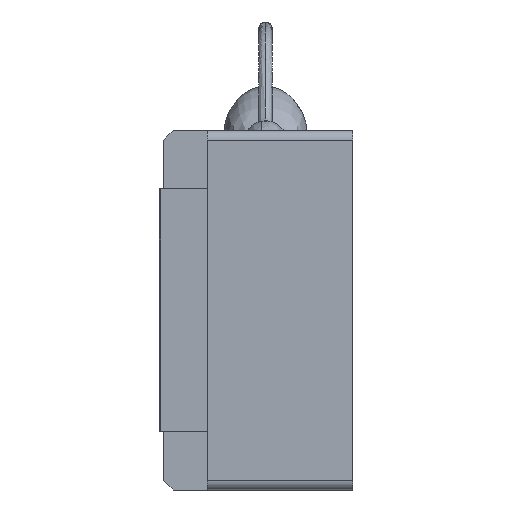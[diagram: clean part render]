
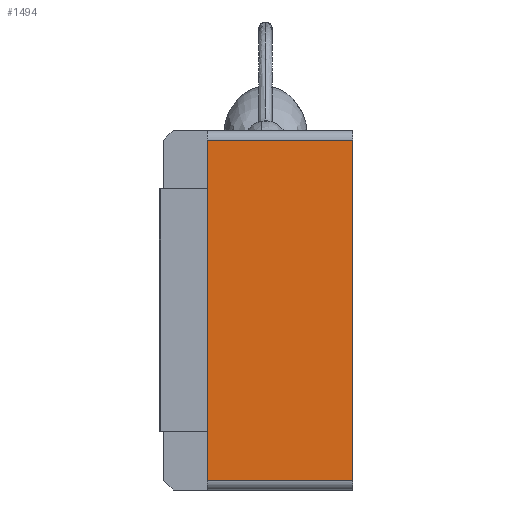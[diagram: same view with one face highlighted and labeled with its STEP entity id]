
A CAD part, left-side view. The second image highlights one B-rep face of the part: STEP entity #1494.
In plain terms, the highlighted planar face has unit normal (-1, 0, 0).
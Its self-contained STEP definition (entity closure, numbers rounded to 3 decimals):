
#13 = CARTESIAN_POINT ( 'NONE',  ( -94.5, 30., 35. ) ) ;
#216 = LINE ( 'NONE', #13, #12570 ) ;
#429 = CARTESIAN_POINT ( 'NONE',  ( -94.5, 30., -37. ) ) ;
#445 = CARTESIAN_POINT ( 'NONE',  ( -94.5, 0., -35. ) ) ;
#1418 = CARTESIAN_POINT ( 'NONE',  ( -94.5, 0., -37. ) ) ;
#1494 = ADVANCED_FACE ( 'NONE', ( #8357 ), #1813, .F. ) ;
#1813 = PLANE ( 'NONE',  #7863 ) ;
#2534 = EDGE_CURVE ( 'NONE', #9696, #8082, #11110, .T. ) ;
#3373 = EDGE_LOOP ( 'NONE', ( #13133, #5516, #5637, #6752 ) ) ;
#3660 = DIRECTION ( 'NONE',  ( 0., 1., 0. ) ) ;
#5063 = CARTESIAN_POINT ( 'NONE',  ( -94.5, 30., -35. ) ) ;
#5505 = DIRECTION ( 'NONE',  ( 0., 0., -1. ) ) ;
#5516 = ORIENTED_EDGE ( 'NONE', *, *, #2534, .T. ) ;
#5637 = ORIENTED_EDGE ( 'NONE', *, *, #11067, .T. ) ;
#5719 = EDGE_CURVE ( 'NONE', #9696, #11468, #14977, .T. ) ;
#6752 = ORIENTED_EDGE ( 'NONE', *, *, #13569, .T. ) ;
#6840 = LINE ( 'NONE', #1418, #13511 ) ;
#6967 = CARTESIAN_POINT ( 'NONE',  ( -94.5, 30., 35. ) ) ;
#7085 = CARTESIAN_POINT ( 'NONE',  ( -94.5, 30., -35. ) ) ;
#7863 = AXIS2_PLACEMENT_3D ( 'NONE', #14956, #12603, #5505 ) ;
#8082 = VERTEX_POINT ( 'NONE', #445 ) ;
#8357 = FACE_OUTER_BOUND ( 'NONE', #3373, .T. ) ;
#8607 = DIRECTION ( 'NONE',  ( 0., 0., 1. ) ) ;
#9420 = DIRECTION ( 'NONE',  ( 0., -1., 0. ) ) ;
#9696 = VERTEX_POINT ( 'NONE', #5063 ) ;
#10486 = VERTEX_POINT ( 'NONE', #11153 ) ;
#11067 = EDGE_CURVE ( 'NONE', #8082, #10486, #6840, .T. ) ;
#11110 = LINE ( 'NONE', #7085, #13908 ) ;
#11153 = CARTESIAN_POINT ( 'NONE',  ( -94.5, 0., 35. ) ) ;
#11468 = VERTEX_POINT ( 'NONE', #6967 ) ;
#11781 = VECTOR ( 'NONE', #12348, 1000. ) ;
#12348 = DIRECTION ( 'NONE',  ( 0., 0., 1. ) ) ;
#12570 = VECTOR ( 'NONE', #3660, 1000. ) ;
#12603 = DIRECTION ( 'NONE',  ( 1., 0., 0. ) ) ;
#13133 = ORIENTED_EDGE ( 'NONE', *, *, #5719, .F. ) ;
#13511 = VECTOR ( 'NONE', #8607, 1000. ) ;
#13569 = EDGE_CURVE ( 'NONE', #10486, #11468, #216, .T. ) ;
#13908 = VECTOR ( 'NONE', #9420, 1000. ) ;
#14956 = CARTESIAN_POINT ( 'NONE',  ( -94.5, 30., -37. ) ) ;
#14977 = LINE ( 'NONE', #429, #11781 ) ;
